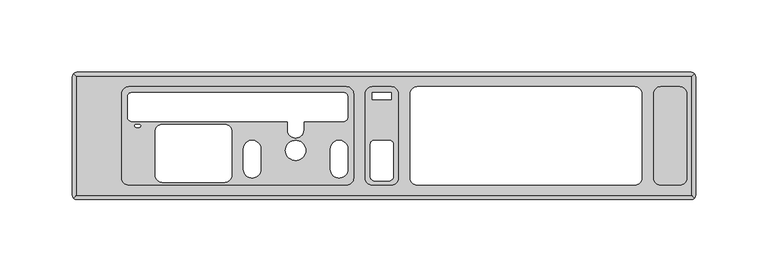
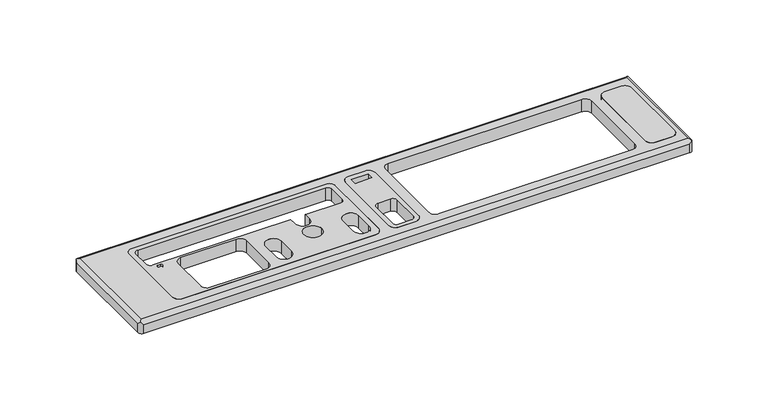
"""IFC4 building model written with IfcOpenShell, lengths in millimetres: switching device geometry, Панель управления SonarSPM : 1 зона."""

from ifc_helpers import new_model, si_unit, point, frame, frame_2d, origin, origin_with_axes, place, context, project, spatial, polyline, circle_curve, ellipse_curve, trimmed, segment, composite_curve, outline, extrude, source, transform, mapped, element, save
from ifc_brep_helpers import plane_surface, cylinder_surface, revolved_surface, advanced_brep


def switching_device_18c6dcab(model_context):
    return source(origin(), model_context, "Body", "SolidModel", [
        extrude(outline(composite_curve([segment(polyline([(-21.0, 29.0), (-21.0, -29.0)]), True, "CONTINUOUS"), segment(trimmed(circle_curve(frame_2d((-26.0, -29.0)), 5.0), [point((-21.0, -29.0))], [point((-26.0, -34.0))], False, "CARTESIAN"), True, "CONTINUOUS"), segment(polyline([(-26.0, -34.0), (-176.0, -34.0)]), True, "CONTINUOUS"), segment(trimmed(circle_curve(frame_2d((-176.0, -29.0)), 5.0), [point((-176.0, -34.0))], [point((-181.0, -29.0))], False, "CARTESIAN"), True, "CONTINUOUS"), segment(polyline([(-181.0, -29.0), (-181.0, 29.0)]), True, "CONTINUOUS"), segment(trimmed(circle_curve(frame_2d((-176.0, 29.0)), 5.0), [point((-181.0, 29.0))], [point((-176.0, 34.0))], False, "CARTESIAN"), True, "CONTINUOUS"), segment(polyline([(-176.0, 34.0), (-26.0, 34.0)]), True, "CONTINUOUS"), segment(trimmed(circle_curve(frame_2d((-26.0, 29.0)), 5.0), [point((-26.0, 34.0))], [point((-21.0, 29.0))], False, "CARTESIAN"), True, "CONTINUOUS")], self_intersect=False), holes=[composite_curve([segment(trimmed(circle_curve(frame_2d((-174.0, 27.0)), 3.0), [point((-174.0, 30.0))], [point((-177.0, 27.0))], True, "CARTESIAN"), True, "CONTINUOUS"), segment(polyline([(-177.0, 27.0), (-177.0, 13.0)]), True, "CONTINUOUS"), segment(trimmed(circle_curve(frame_2d((-174.0, 13.0)), 3.0), [point((-177.0, 13.0))], [point((-174.0, 10.0))], True, "CARTESIAN"), True, "CONTINUOUS"), segment(polyline([(-174.0, 10.0), (-66.5, 10.0), (-66.5, 4.0)]), True, "CONTINUOUS"), segment(trimmed(circle_curve(frame_2d((-61.0, 4.0)), 5.5), [point((-66.5, 4.0))], [point((-55.5, 4.0))], True, "CARTESIAN"), True, "CONTINUOUS"), segment(polyline([(-55.5, 4.0), (-55.5, 10.0), (-28.0, 10.0)]), True, "CONTINUOUS"), segment(trimmed(circle_curve(frame_2d((-28.0, 13.0)), 3.0), [point((-28.0, 10.0))], [point((-25.0, 13.0))], True, "CARTESIAN"), True, "CONTINUOUS"), segment(polyline([(-25.0, 13.0), (-25.0, 27.0)]), True, "CONTINUOUS"), segment(trimmed(circle_curve(frame_2d((-28.0, 27.0)), 3.0), [point((-25.0, 27.0))], [point((-28.0, 30.0))], True, "CARTESIAN"), True, "CONTINUOUS"), segment(polyline([(-28.0, 30.0), (-174.0, 30.0)]), True, "CONTINUOUS")], self_intersect=False), composite_curve([segment(polyline([(-158.0, 3.0), (-158.0, -27.0)]), True, "CONTINUOUS"), segment(trimmed(circle_curve(frame_2d((-153.0, -27.0)), 5.0), [point((-158.0, -27.0))], [point((-153.0, -32.0))], True, "CARTESIAN"), True, "CONTINUOUS"), segment(polyline([(-153.0, -32.0), (-110.0, -32.0)]), True, "CONTINUOUS"), segment(trimmed(circle_curve(frame_2d((-110.0, -27.0)), 5.0), [point((-110.0, -32.0))], [point((-105.0, -27.0))], True, "CARTESIAN"), True, "CONTINUOUS"), segment(polyline([(-105.0, -27.0), (-105.0, 3.0)]), True, "CONTINUOUS"), segment(trimmed(circle_curve(frame_2d((-110.0, 3.0)), 5.0), [point((-105.0, 3.0))], [point((-110.0, 8.0))], True, "CARTESIAN"), True, "CONTINUOUS"), segment(polyline([(-110.0, 8.0), (-153.0, 8.0)]), True, "CONTINUOUS"), segment(trimmed(circle_curve(frame_2d((-153.0, 3.0)), 5.0), [point((-153.0, 8.0))], [point((-158.0, 3.0))], True, "CARTESIAN"), True, "CONTINUOUS")], self_intersect=False), composite_curve([segment(trimmed(circle_curve(frame_2d((-91.0, -9.0)), 6.0), [point((-85.0, -9.0))], [point((-97.0, -9.0))], True, "CARTESIAN"), True, "CONTINUOUS"), segment(polyline([(-97.0, -9.0), (-97.0, -23.0)]), True, "CONTINUOUS"), segment(trimmed(circle_curve(frame_2d((-91.0, -23.0)), 6.0), [point((-97.0, -23.0))], [point((-85.0, -23.0))], True, "CARTESIAN"), True, "CONTINUOUS"), segment(polyline([(-85.0, -23.0), (-85.0, -9.0)]), True, "CONTINUOUS")], self_intersect=False), composite_curve([segment(trimmed(circle_curve(frame_2d((-31.0, -9.0)), 6.0), [point((-25.0, -9.0))], [point((-37.0, -9.0))], True, "CARTESIAN"), True, "CONTINUOUS"), segment(polyline([(-37.0, -9.0), (-37.0, -23.0)]), True, "CONTINUOUS"), segment(trimmed(circle_curve(frame_2d((-31.0, -23.0)), 6.0), [point((-37.0, -23.0))], [point((-25.0, -23.0))], True, "CARTESIAN"), True, "CONTINUOUS"), segment(polyline([(-25.0, -23.0), (-25.0, -9.0)]), True, "CONTINUOUS")], self_intersect=False), composite_curve([segment(trimmed(circle_curve(frame_2d((-61.0, -10.0)), 7.0), [point((-68.0, -10.0))], [point((-54.0, -10.0))], True, "CARTESIAN"), True, "CONTINUOUS"), segment(trimmed(circle_curve(frame_2d((-61.0, -10.0)), 7.0), [point((-54.0, -10.0))], [point((-68.0, -10.0))], True, "CARTESIAN"), True, "CONTINUOUS")], self_intersect=False), composite_curve([segment(trimmed(circle_curve(frame_2d((-171.0, 7.0)), 1.0), [point((-171.0, 8.0))], [point((-171.0, 6.0))], True, "CARTESIAN"), True, "CONTINUOUS"), segment(polyline([(-171.0, 6.0), (-169.0, 6.0)]), True, "CONTINUOUS"), segment(trimmed(circle_curve(frame_2d((-169.0, 7.0)), 1.0), [point((-169.0, 6.0))], [point((-169.0, 8.0))], True, "CARTESIAN"), True, "CONTINUOUS"), segment(polyline([(-169.0, 8.0), (-171.0, 8.0)]), True, "CONTINUOUS")], self_intersect=False)]), origin_with_axes(), (0.0, 0.0, 1.0), 10.0),
        extrude(outline(composite_curve([segment(polyline([(-13.0, -29.0), (-13.0, 29.0)]), True, "CONTINUOUS"), segment(trimmed(circle_curve(frame_2d((-8.0, 29.0)), 5.0), [point((-13.0, 29.0))], [point((-8.0, 34.0))], False, "CARTESIAN"), True, "CONTINUOUS"), segment(polyline([(-8.0, 34.0), (5.0, 34.0)]), True, "CONTINUOUS"), segment(trimmed(circle_curve(frame_2d((5.0, 29.0)), 5.0), [point((5.0, 34.0))], [point((10.0, 29.0))], False, "CARTESIAN"), True, "CONTINUOUS"), segment(polyline([(10.0, 29.0), (10.0, -29.0)]), True, "CONTINUOUS"), segment(trimmed(circle_curve(frame_2d((5.0, -29.0)), 5.0), [point((10.0, -29.0))], [point((5.0, -34.0))], False, "CARTESIAN"), True, "CONTINUOUS"), segment(polyline([(5.0, -34.0), (-8.0, -34.0)]), True, "CONTINUOUS"), segment(trimmed(circle_curve(frame_2d((-8.0, -29.0)), 5.0), [point((-8.0, -34.0))], [point((-13.0, -29.0))], False, "CARTESIAN"), True, "CONTINUOUS")], self_intersect=False), holes=[polyline([(5.0, 30.0), (-8.0, 30.0), (-8.0, 25.0), (5.0, 25.0), (5.0, 30.0)]), composite_curve([segment(polyline([(3.5, -3.0), (-6.5, -3.0)]), True, "CONTINUOUS"), segment(trimmed(circle_curve(frame_2d((-6.5, -6.0)), 3.0), [point((-6.5, -3.0))], [point((-9.5, -6.0))], True, "CARTESIAN"), True, "CONTINUOUS"), segment(polyline([(-9.5, -6.0), (-9.5, -28.0)]), True, "CONTINUOUS"), segment(trimmed(circle_curve(frame_2d((-6.5, -28.0)), 3.0), [point((-9.5, -28.0))], [point((-6.5, -31.0))], True, "CARTESIAN"), True, "CONTINUOUS"), segment(polyline([(-6.5, -31.0), (3.5, -31.0)]), True, "CONTINUOUS"), segment(trimmed(circle_curve(frame_2d((3.5, -28.0)), 3.0), [point((3.5, -31.0))], [point((6.5, -28.0))], True, "CARTESIAN"), True, "CONTINUOUS"), segment(polyline([(6.5, -28.0), (6.5, -6.0)]), True, "CONTINUOUS"), segment(trimmed(circle_curve(frame_2d((3.5, -6.0)), 3.0), [point((6.5, -6.0))], [point((3.5, -3.0))], True, "CARTESIAN"), True, "CONTINUOUS")], self_intersect=False)]), origin_with_axes(), (0.0, 0.0, 1.0), 10.0),
        extrude(outline(composite_curve([segment(trimmed(circle_curve(frame_2d((191.0, 29.0)), 5.0), [point((186.0, 29.0))], [point((191.0, 34.0))], False, "CARTESIAN"), True, "CONTINUOUS"), segment(polyline([(191.0, 34.0), (204.0, 34.0)]), True, "CONTINUOUS"), segment(trimmed(circle_curve(frame_2d((204.0, 29.0)), 5.0), [point((204.0, 34.0))], [point((209.0, 29.0))], False, "CARTESIAN"), True, "CONTINUOUS"), segment(polyline([(209.0, 29.0), (209.0, -29.0)]), True, "CONTINUOUS"), segment(trimmed(circle_curve(frame_2d((204.0, -29.0)), 5.0), [point((209.0, -29.0))], [point((204.0, -34.0))], False, "CARTESIAN"), True, "CONTINUOUS"), segment(polyline([(204.0, -34.0), (191.0, -34.0)]), True, "CONTINUOUS"), segment(trimmed(circle_curve(frame_2d((191.0, -29.0)), 5.0), [point((191.0, -34.0))], [point((186.0, -29.0))], False, "CARTESIAN"), True, "CONTINUOUS"), segment(polyline([(186.0, -29.0), (186.0, 29.0)]), True, "CONTINUOUS")], self_intersect=False)), origin_with_axes(), (0.0, 0.0, 1.0), 10.0),
        advanced_brep(
        [(-212.0, -41.0, 10.0), (212.0, -41.0, 10.0), (212.0, 41.0, 10.0), (-212.0, 41.0, 10.0), (-181.0, 29.0, 10.0), (-176.0, 34.0, 10.0), (-26.0, 34.0, 10.0), (-21.0, 29.0, 10.0), (-21.0, -29.0, 10.0), (-26.0, -34.0, 10.0), (-176.0, -34.0, 10.0), (-181.0, -29.0, 10.0), (5.0, 34.0, 10.0), (10.0, 29.0, 10.0), (10.0, -29.0, 10.0), (5.0, -34.0, 10.0), (-8.0, -34.0, 10.0), (-13.0, -29.0, 10.0), (-13.0, 29.0, 10.0), (-8.0, 34.0, 10.0), (18.0, 29.0, 10.0), (23.0, 34.0, 10.0), (173.0, 34.0, 10.0), (178.0, 29.0, 10.0), (178.0, -29.0, 10.0), (173.0, -34.0, 10.0), (23.0, -34.0, 10.0), (18.0, -29.0, 10.0), (204.0, 34.0, 10.0), (209.0, 29.0, 10.0), (209.0, -29.0, 10.0), (204.0, -34.0, 10.0), (191.0, -34.0, 10.0), (186.0, -29.0, 10.0), (186.0, 29.0, 10.0), (191.0, 34.0, 10.0), (212.0, 44.0, 0.0), (215.0, 41.0, 0.0), (215.0, -41.0, 0.0), (212.0, -44.0, 0.0), (-212.0, -44.0, 0.0), (-215.0, -41.0, 0.0), (-215.0, 41.0, 0.0), (-212.0, 44.0, 0.0), (-181.0, 29.0, 0.0), (-181.0, -29.0, 0.0), (-176.0, -34.0, 0.0), (-26.0, -34.0, 0.0), (-21.0, -29.0, 0.0), (-21.0, 29.0, 0.0), (-26.0, 34.0, 0.0), (-176.0, 34.0, 0.0), (5.0, 34.0, 0.0), (-8.0, 34.0, 0.0), (-13.0, 29.0, 0.0), (-13.0, -29.0, 0.0), (-8.0, -34.0, 0.0), (5.0, -34.0, 0.0), (10.0, -29.0, 0.0), (10.0, 29.0, 0.0), (18.0, 29.0, 0.0), (18.0, -29.0, 0.0), (23.0, -34.0, 0.0), (173.0, -34.0, 0.0), (178.0, -29.0, 0.0), (178.0, 29.0, 0.0), (173.0, 34.0, 0.0), (23.0, 34.0, 0.0), (204.0, 34.0, 0.0), (191.0, 34.0, 0.0), (186.0, 29.0, 0.0), (186.0, -29.0, 0.0), (191.0, -34.0, 0.0), (204.0, -34.0, 0.0), (209.0, -29.0, 0.0), (209.0, 29.0, 0.0), (212.0, 44.0, 7.0), (214.1213203, 43.1213203, 9.1213203), (215.0, 41.0, 7.0), (215.0, -41.0, 7.0), (214.1213203, -43.1213203, 9.1213203), (212.0, -44.0, 7.0), (-212.0, -44.0, 7.0), (-214.1213203, -43.1213203, 9.1213203), (-215.0, -41.0, 7.0), (-215.0, 41.0, 7.0), (-214.1213203, 43.1213203, 9.1213203), (-212.0, 44.0, 7.0)],
        [
            (0, 1),
            (1, 2),
            (2, 3),
            (3, 0),
            (4, 5, circle_curve(frame((-176.0, 29.0, 10.0), z_axis=(0.0, 0.0, -1.0), x_axis=(1.0, 0.0, 0.0)), 5.0)),
            (5, 6),
            (6, 7, circle_curve(frame((-26.0, 29.0, 10.0), z_axis=(0.0, 0.0, -1.0), x_axis=(1.0, 0.0, 0.0)), 5.0)),
            (7, 8),
            (8, 9, circle_curve(frame((-26.0, -29.0, 10.0), z_axis=(0.0, 0.0, -1.0), x_axis=(1.0, 0.0, 0.0)), 5.0)),
            (9, 10),
            (10, 11, circle_curve(frame((-176.0, -29.0, 10.0), z_axis=(0.0, 0.0, -1.0), x_axis=(1.0, 0.0, 0.0)), 5.0)),
            (11, 4),
            (12, 13, circle_curve(frame((5.0, 29.0, 10.0), z_axis=(0.0, 0.0, -1.0), x_axis=(1.0, 0.0, 0.0)), 5.0)),
            (13, 14),
            (14, 15, circle_curve(frame((5.0, -29.0, 10.0), z_axis=(0.0, 0.0, -1.0), x_axis=(1.0, 0.0, 0.0)), 5.0)),
            (15, 16),
            (16, 17, circle_curve(frame((-8.0, -29.0, 10.0), z_axis=(0.0, 0.0, -1.0), x_axis=(1.0, 0.0, 0.0)), 5.0)),
            (17, 18),
            (18, 19, circle_curve(frame((-8.0, 29.0, 10.0), z_axis=(0.0, 0.0, -1.0), x_axis=(1.0, 0.0, 0.0)), 5.0)),
            (19, 12),
            (20, 21, circle_curve(frame((23.0, 29.0, 10.0), z_axis=(0.0, 0.0, -1.0), x_axis=(1.0, 0.0, 0.0)), 5.0)),
            (21, 22),
            (22, 23, circle_curve(frame((173.0, 29.0, 10.0), z_axis=(0.0, 0.0, -1.0), x_axis=(1.0, 0.0, 0.0)), 5.0)),
            (23, 24),
            (24, 25, circle_curve(frame((173.0, -29.0, 10.0), z_axis=(0.0, 0.0, -1.0), x_axis=(1.0, 0.0, 0.0)), 5.0)),
            (25, 26),
            (26, 27, circle_curve(frame((23.0, -29.0, 10.0), z_axis=(0.0, 0.0, -1.0), x_axis=(1.0, 0.0, 0.0)), 5.0)),
            (27, 20),
            (28, 29, circle_curve(frame((204.0, 29.0, 10.0), z_axis=(0.0, 0.0, -1.0), x_axis=(1.0, 0.0, 0.0)), 5.0)),
            (29, 30),
            (30, 31, circle_curve(frame((204.0, -29.0, 10.0), z_axis=(0.0, 0.0, -1.0), x_axis=(1.0, 0.0, 0.0)), 5.0)),
            (31, 32),
            (32, 33, circle_curve(frame((191.0, -29.0, 10.0), z_axis=(0.0, 0.0, -1.0), x_axis=(1.0, 0.0, 0.0)), 5.0)),
            (33, 34),
            (34, 35, circle_curve(frame((191.0, 29.0, 10.0), z_axis=(0.0, 0.0, -1.0), x_axis=(1.0, 0.0, 0.0)), 5.0)),
            (35, 28),
            (36, 37, circle_curve(frame((212.0, 41.0, 0.0), z_axis=(0.0, 0.0, -1.0), x_axis=(-1.0, 0.0, 0.0)), 3.0)),
            (37, 38),
            (38, 39, circle_curve(frame((212.0, -41.0, 0.0), z_axis=(0.0, 0.0, -1.0), x_axis=(-1.0, 0.0, 0.0)), 3.0)),
            (39, 40),
            (40, 41, circle_curve(frame((-212.0, -41.0, 0.0), z_axis=(0.0, 0.0, -1.0), x_axis=(1.0, 0.0, 0.0)), 3.0)),
            (41, 42),
            (42, 43, circle_curve(frame((-212.0, 41.0, 0.0), z_axis=(0.0, 0.0, -1.0), x_axis=(1.0, 0.0, 0.0)), 3.0)),
            (43, 36),
            (44, 45),
            (45, 46, circle_curve(frame((-176.0, -29.0, 0.0), z_axis=(0.0, 0.0, 1.0), x_axis=(1.0, 0.0, 0.0)), 5.0)),
            (46, 47),
            (47, 48, circle_curve(frame((-26.0, -29.0, 0.0), z_axis=(0.0, 0.0, 1.0), x_axis=(1.0, 0.0, 0.0)), 5.0)),
            (48, 49),
            (49, 50, circle_curve(frame((-26.0, 29.0, 0.0), z_axis=(0.0, 0.0, 1.0), x_axis=(1.0, 0.0, 0.0)), 5.0)),
            (50, 51),
            (51, 44, circle_curve(frame((-176.0, 29.0, 0.0), z_axis=(0.0, 0.0, 1.0), x_axis=(1.0, 0.0, 0.0)), 5.0)),
            (52, 53),
            (53, 54, circle_curve(frame((-8.0, 29.0, 0.0), z_axis=(0.0, 0.0, 1.0), x_axis=(1.0, 0.0, 0.0)), 5.0)),
            (54, 55),
            (55, 56, circle_curve(frame((-8.0, -29.0, 0.0), z_axis=(0.0, 0.0, 1.0), x_axis=(1.0, 0.0, 0.0)), 5.0)),
            (56, 57),
            (57, 58, circle_curve(frame((5.0, -29.0, 0.0), z_axis=(0.0, 0.0, 1.0), x_axis=(1.0, 0.0, 0.0)), 5.0)),
            (58, 59),
            (59, 52, circle_curve(frame((5.0, 29.0, 0.0), z_axis=(0.0, 0.0, 1.0), x_axis=(1.0, 0.0, 0.0)), 5.0)),
            (60, 61),
            (61, 62, circle_curve(frame((23.0, -29.0, 0.0), z_axis=(0.0, 0.0, 1.0), x_axis=(1.0, 0.0, 0.0)), 5.0)),
            (62, 63),
            (63, 64, circle_curve(frame((173.0, -29.0, 0.0), z_axis=(0.0, 0.0, 1.0), x_axis=(1.0, 0.0, 0.0)), 5.0)),
            (64, 65),
            (65, 66, circle_curve(frame((173.0, 29.0, 0.0), z_axis=(0.0, 0.0, 1.0), x_axis=(1.0, 0.0, 0.0)), 5.0)),
            (66, 67),
            (67, 60, circle_curve(frame((23.0, 29.0, 0.0), z_axis=(0.0, 0.0, 1.0), x_axis=(1.0, 0.0, 0.0)), 5.0)),
            (68, 69),
            (69, 70, circle_curve(frame((191.0, 29.0, 0.0), z_axis=(0.0, 0.0, 1.0), x_axis=(1.0, 0.0, 0.0)), 5.0)),
            (70, 71),
            (71, 72, circle_curve(frame((191.0, -29.0, 0.0), z_axis=(0.0, 0.0, 1.0), x_axis=(1.0, 0.0, 0.0)), 5.0)),
            (72, 73),
            (73, 74, circle_curve(frame((204.0, -29.0, 0.0), z_axis=(0.0, 0.0, 1.0), x_axis=(1.0, 0.0, 0.0)), 5.0)),
            (74, 75),
            (75, 68, circle_curve(frame((204.0, 29.0, 0.0), z_axis=(0.0, 0.0, 1.0), x_axis=(1.0, 0.0, 0.0)), 5.0)),
            (36, 76),
            (76, 77, ellipse_curve(frame((212.0, 41.0, 7.0), z_axis=(0.7071067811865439, 0.0, -0.7071067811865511), x_axis=(0.7071067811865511, 0.0, 0.7071067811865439)), 4.2426407, 3.0)),
            (77, 78, ellipse_curve(frame((212.0, 41.0, 7.0), z_axis=(0.0, 0.7071067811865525, -0.7071067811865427), x_axis=(0.0, 0.7071067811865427, 0.7071067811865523)), 4.2426407, 3.0)),
            (78, 37),
            (78, 79),
            (79, 38),
            (79, 80, ellipse_curve(frame((212.0, -41.0, 7.0), z_axis=(0.0, -0.7071067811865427, -0.7071067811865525), x_axis=(0.0, -0.7071067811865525, 0.7071067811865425)), 4.2426407, 3.0)),
            (80, 81, ellipse_curve(frame((212.0, -41.0, 7.0), z_axis=(0.7071067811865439, 0.0, -0.7071067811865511), x_axis=(0.7071067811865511, 0.0, 0.7071067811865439)), 4.2426407, 3.0)),
            (81, 39),
            (81, 82),
            (82, 40),
            (82, 83, ellipse_curve(frame((-212.0, -41.0, 7.0), z_axis=(-0.7071067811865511, 0.0, -0.7071067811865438), x_axis=(-0.7071067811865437, 0.0, 0.7071067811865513)), 4.2426407, 3.0)),
            (83, 84, ellipse_curve(frame((-212.0, -41.0, 7.0), z_axis=(0.0, -0.7071067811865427, -0.7071067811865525), x_axis=(0.0, -0.7071067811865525, 0.7071067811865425)), 4.2426407, 3.0)),
            (84, 41),
            (84, 85),
            (85, 42),
            (85, 86, ellipse_curve(frame((-212.0, 41.0, 7.0), z_axis=(0.0, 0.7071067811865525, -0.7071067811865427), x_axis=(0.0, 0.7071067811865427, 0.7071067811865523)), 4.2426407, 3.0)),
            (86, 87, ellipse_curve(frame((-212.0, 41.0, 7.0), z_axis=(-0.7071067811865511, 0.0, -0.7071067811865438), x_axis=(-0.7071067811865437, 0.0, 0.7071067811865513)), 4.2426407, 3.0)),
            (87, 43),
            (87, 76),
            (11, 45),
            (44, 4),
            (10, 46),
            (9, 47),
            (8, 48),
            (7, 49),
            (6, 50),
            (5, 51),
            (19, 53),
            (52, 12),
            (18, 54),
            (17, 55),
            (16, 56),
            (15, 57),
            (14, 58),
            (13, 59),
            (27, 61),
            (60, 20),
            (26, 62),
            (25, 63),
            (24, 64),
            (23, 65),
            (22, 66),
            (21, 67),
            (35, 69),
            (68, 28),
            (34, 70),
            (33, 71),
            (32, 72),
            (31, 73),
            (30, 74),
            (29, 75),
            (86, 3, ellipse_curve(frame((-212.0, 41.0, 7.0), z_axis=(0.7071067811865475, 0.7071067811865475, 0.0), x_axis=(0.7071067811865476, -0.7071067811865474, 0.0)), 4.2426407, 3.0)),
            (2, 77, ellipse_curve(frame((212.0, 41.0, 7.0), z_axis=(-0.7071067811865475, 0.7071067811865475, 0.0), x_axis=(0.7071067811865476, 0.7071067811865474, 0.0)), 4.2426407, 3.0)),
            (80, 1, ellipse_curve(frame((212.0, -41.0, 7.0), z_axis=(-0.7071067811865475, -0.7071067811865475, 0.0), x_axis=(0.7071067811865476, -0.7071067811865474, 0.0)), 4.2426407, 3.0)),
            (0, 83, ellipse_curve(frame((-212.0, -41.0, 7.0), z_axis=(0.7071067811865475, -0.7071067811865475, 0.0), x_axis=(0.7071067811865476, 0.7071067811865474, 0.0)), 4.2426407, 3.0)),
        ],
        [
            plane_surface(frame((-385.0, 44.0, 10.0), z_axis=(0.0, 0.0, 1.0), x_axis=(-1.0, 0.0, 0.0))),
            plane_surface(frame((-385.0, 44.0, 0.0), z_axis=(0.0, 0.0, -1.0), x_axis=(1.0, 0.0, 0.0))),
            cylinder_surface(frame((212.0, 41.0, 0.0), z_axis=(0.0, 0.0, 1.0), x_axis=(-1.0, 0.0, 0.0)), 3.0),
            plane_surface(frame((215.0, -41.0, 10.0), z_axis=(1.0, 0.0, 0.0), x_axis=(0.0, 0.0, -1.0))),
            cylinder_surface(frame((212.0, -41.0, 0.0), z_axis=(0.0, 0.0, 1.0), x_axis=(-1.0, 0.0, 0.0)), 3.0),
            plane_surface(frame((-212.0, -44.0, 10.0), z_axis=(0.0, -1.0, 0.0), x_axis=(0.0, 0.0, -1.0))),
            cylinder_surface(frame((-212.0, -41.0, 0.0), z_axis=(0.0, 0.0, 1.0), x_axis=(1.0, 0.0, 0.0)), 3.0),
            plane_surface(frame((-215.0, 41.0, 10.0), z_axis=(-1.0, 0.0, 0.0), x_axis=(0.0, 0.0, -1.0))),
            cylinder_surface(frame((-212.0, 41.0, 0.0), z_axis=(0.0, 0.0, 1.0), x_axis=(1.0, 0.0, 0.0)), 3.0),
            plane_surface(frame((212.0, 44.0, 10.0), z_axis=(0.0, 1.0, 0.0), x_axis=(0.0, 0.0, -1.0))),
            plane_surface(frame((-181.0, -29.0, 10.0), z_axis=(1.0, 0.0, 0.0), x_axis=(0.0, 0.0, -1.0))),
            revolved_surface(polyline([(-171.0, -29.0, 0.0), (-171.0, -29.0, 10.0)]), (-176.0, -29.0, 0.0), (0.0, 0.0, -1.0)),
            plane_surface(frame((-26.0, -34.0, 10.0), z_axis=(0.0, 1.0, 0.0), x_axis=(0.0, 0.0, -1.0))),
            revolved_surface(polyline([(-21.0, -29.0, 0.0), (-21.0, -29.0, 10.0)]), (-26.0, -29.0, 0.0), (0.0, 0.0, -1.0)),
            plane_surface(frame((-21.0, 29.0, 10.0), z_axis=(-1.0, 0.0, 0.0), x_axis=(0.0, 0.0, -1.0))),
            revolved_surface(polyline([(-21.0, 29.0, 0.0), (-21.0, 29.0, 10.0)]), (-26.0, 29.0, 0.0), (0.0, 0.0, -1.0)),
            plane_surface(frame((-176.0, 34.0, 10.0), z_axis=(0.0, -1.0, 0.0), x_axis=(0.0, 0.0, -1.0))),
            revolved_surface(polyline([(-171.0, 29.0, 0.0), (-171.0, 29.0, 10.0)]), (-176.0, 29.0, 0.0), (0.0, 0.0, -1.0)),
            plane_surface(frame((-8.0, 34.0, 10.0), z_axis=(0.0, -1.0, 0.0), x_axis=(0.0, 0.0, -1.0))),
            revolved_surface(polyline([(-3.0, 29.0, 0.0), (-3.0, 29.0, 10.0)]), (-8.0, 29.0, 0.0), (0.0, 0.0, -1.0)),
            plane_surface(frame((-13.0, -29.0, 10.0), z_axis=(1.0, 0.0, 0.0), x_axis=(0.0, 0.0, -1.0))),
            revolved_surface(polyline([(-3.0, -29.0, 0.0), (-3.0, -29.0, 10.0)]), (-8.0, -29.0, 0.0), (0.0, 0.0, -1.0)),
            plane_surface(frame((5.0, -34.0, 10.0), z_axis=(0.0, 1.0, 0.0), x_axis=(0.0, 0.0, -1.0))),
            revolved_surface(polyline([(10.0, -29.0, 0.0), (10.0, -29.0, 10.0)]), (5.0, -29.0, 0.0), (0.0, 0.0, -1.0)),
            plane_surface(frame((10.0, 29.0, 10.0), z_axis=(-1.0, 0.0, 0.0), x_axis=(0.0, 0.0, -1.0))),
            revolved_surface(polyline([(10.0, 29.0, 0.0), (10.0, 29.0, 10.0)]), (5.0, 29.0, 0.0), (0.0, 0.0, -1.0)),
            plane_surface(frame((18.0, -29.0, 10.0), z_axis=(1.0, 0.0, 0.0), x_axis=(0.0, 0.0, -1.0))),
            revolved_surface(polyline([(28.0, -29.0, 0.0), (28.0, -29.0, 10.0)]), (23.0, -29.0, 0.0), (0.0, 0.0, -1.0)),
            plane_surface(frame((173.0, -34.0, 10.0), z_axis=(0.0, 1.0, 0.0), x_axis=(0.0, 0.0, -1.0))),
            revolved_surface(polyline([(178.0, -29.0, 0.0), (178.0, -29.0, 10.0)]), (173.0, -29.0, 0.0), (0.0, 0.0, -1.0)),
            plane_surface(frame((178.0, 29.0, 10.0), z_axis=(-1.0, 0.0, 0.0), x_axis=(0.0, 0.0, -1.0))),
            revolved_surface(polyline([(178.0, 29.0, 0.0), (178.0, 29.0, 10.0)]), (173.0, 29.0, 0.0), (0.0, 0.0, -1.0)),
            plane_surface(frame((23.0, 34.0, 10.0), z_axis=(0.0, -1.0, 0.0), x_axis=(0.0, 0.0, -1.0))),
            revolved_surface(polyline([(28.0, 29.0, 0.0), (28.0, 29.0, 10.0)]), (23.0, 29.0, 0.0), (0.0, 0.0, -1.0)),
            plane_surface(frame((191.0, 34.0, 10.0), z_axis=(0.0, -1.0, 0.0), x_axis=(0.0, 0.0, -1.0))),
            revolved_surface(polyline([(196.0, 29.0, 0.0), (196.0, 29.0, 10.0)]), (191.0, 29.0, 0.0), (0.0, 0.0, -1.0)),
            plane_surface(frame((186.0, -29.0, 10.0), z_axis=(1.0, 0.0, 0.0), x_axis=(0.0, 0.0, -1.0))),
            revolved_surface(polyline([(196.0, -29.0, 0.0), (196.0, -29.0, 10.0)]), (191.0, -29.0, 0.0), (0.0, 0.0, -1.0)),
            plane_surface(frame((204.0, -34.0, 10.0), z_axis=(0.0, 1.0, 0.0), x_axis=(0.0, 0.0, -1.0))),
            revolved_surface(polyline([(209.0, -29.0, 0.0), (209.0, -29.0, 10.0)]), (204.0, -29.0, 0.0), (0.0, 0.0, -1.0)),
            plane_surface(frame((209.0, 29.0, 10.0), z_axis=(-1.0, 0.0, 0.0), x_axis=(0.0, 0.0, -1.0))),
            revolved_surface(polyline([(209.0, 29.0, 0.0), (209.0, 29.0, 10.0)]), (204.0, 29.0, 0.0), (0.0, 0.0, -1.0)),
            cylinder_surface(frame((215.0, 41.0, 7.0), z_axis=(1.0, 0.0, 0.0), x_axis=(0.0, -1.0, 0.0)), 3.0),
            cylinder_surface(frame((0.0, -41.0, 7.0), z_axis=(1.0, 0.0, 0.0), x_axis=(0.0, 1.0, 0.0)), 3.0),
            cylinder_surface(frame((-212.0, -45.0, 7.0), z_axis=(0.0, -1.0, 0.0), x_axis=(1.0, 0.0, 0.0)), 3.0),
            cylinder_surface(frame((212.0, 0.0, 7.0), z_axis=(0.0, -1.0, 0.0), x_axis=(-1.0, 0.0, 0.0)), 3.0),
        ],
        [
            (0, [[1, 2, 3, 4], [5, 6, 7, 8, 9, 10, 11, 12], [13, 14, 15, 16, 17, 18, 19, 20], [21, 22, 23, 24, 25, 26, 27, 28], [29, 30, 31, 32, 33, 34, 35, 36]]),
            (1, [[37, 38, 39, 40, 41, 42, 43, 44], [45, 46, 47, 48, 49, 50, 51, 52], [53, 54, 55, 56, 57, 58, 59, 60], [61, 62, 63, 64, 65, 66, 67, 68], [69, 70, 71, 72, 73, 74, 75, 76]]),
            (2, [[-37, 77, 78, 79, 80]]),
            (3, [[-38, -80, 81, 82]]),
            (4, [[-39, -82, 83, 84, 85]]),
            (5, [[-40, -85, 86, 87]]),
            (6, [[-41, -87, 88, 89, 90]]),
            (7, [[-42, -90, 91, 92]]),
            (8, [[-43, -92, 93, 94, 95]]),
            (9, [[-44, -95, 96, -77]]),
            (10, [[-12, 97, -45, 98]]),
            (11, [[-11, 99, -46, -97]]),
            (12, [[-10, 100, -47, -99]]),
            (13, [[-9, 101, -48, -100]]),
            (14, [[-8, 102, -49, -101]]),
            (15, [[-7, 103, -50, -102]]),
            (16, [[-6, 104, -51, -103]]),
            (17, [[-5, -98, -52, -104]]),
            (18, [[-20, 105, -53, 106]]),
            (19, [[-19, 107, -54, -105]]),
            (20, [[-18, 108, -55, -107]]),
            (21, [[-17, 109, -56, -108]]),
            (22, [[-16, 110, -57, -109]]),
            (23, [[-15, 111, -58, -110]]),
            (24, [[-14, 112, -59, -111]]),
            (25, [[-13, -106, -60, -112]]),
            (26, [[-28, 113, -61, 114]]),
            (27, [[-27, 115, -62, -113]]),
            (28, [[-26, 116, -63, -115]]),
            (29, [[-25, 117, -64, -116]]),
            (30, [[-24, 118, -65, -117]]),
            (31, [[-23, 119, -66, -118]]),
            (32, [[-22, 120, -67, -119]]),
            (33, [[-21, -114, -68, -120]]),
            (34, [[-36, 121, -69, 122]]),
            (35, [[-35, 123, -70, -121]]),
            (36, [[-34, 124, -71, -123]]),
            (37, [[-33, 125, -72, -124]]),
            (38, [[-32, 126, -73, -125]]),
            (39, [[-31, 127, -74, -126]]),
            (40, [[-30, 128, -75, -127]]),
            (41, [[-29, -122, -76, -128]]),
            (42, [[-96, -94, 129, -3, 130, -78]]),
            (43, [[-86, -84, 131, -1, 132, -88]]),
            (44, [[-4, -129, -93, -91, -89, -132]]),
            (45, [[-2, -131, -83, -81, -79, -130]]),
        ],
    ),
    ])


if __name__ == "__main__":
    model = new_model("IFC4")
    model_context = context("Model", 3, world=origin())
    ifc_project = project(units=[si_unit("LENGTHUNIT", "METRE", prefix="MILLI")], contexts=[model_context])
    site = spatial("IfcSite", under=ifc_project)
    building = spatial("IfcBuilding", under=site)
    placement = place(None, origin())
    switching_device_shape = switching_device_18c6dcab(model_context)
    element("IfcSwitchingDevice", 1, ObjectType="Панель управления SonarSPM : 1 зона", at=placement, inside=building, context=model_context, shape_type="MappedRepresentation", body=[
        mapped(switching_device_shape, transform((0.0, 0.0, 0.0), x_axis=(1.0, 0.0, 0.0), y_axis=(0.0, 1.0, 0.0), z_axis=(0.0, 0.0, 1.0))),
    ])
    save(model, "model.ifc")
